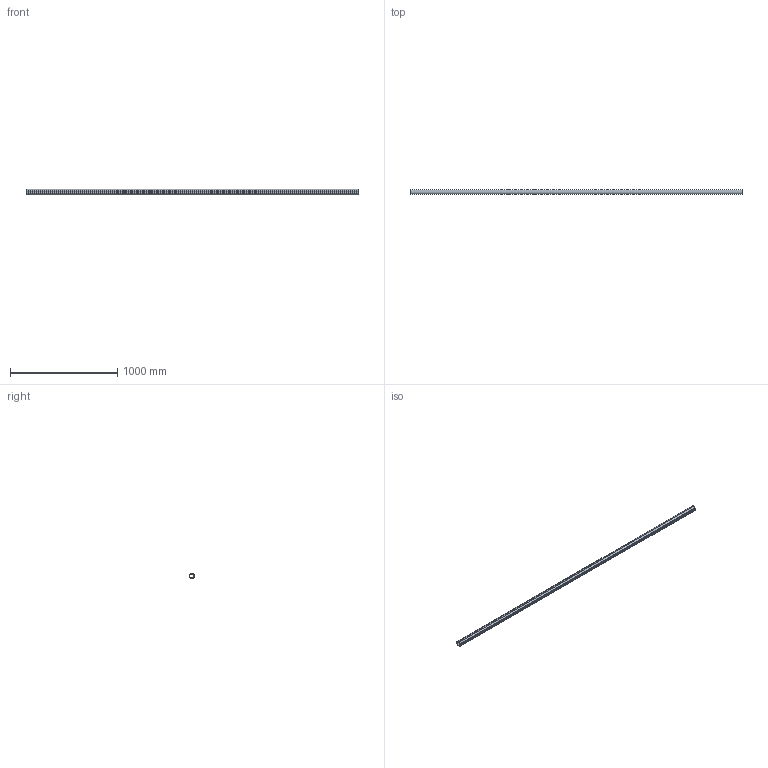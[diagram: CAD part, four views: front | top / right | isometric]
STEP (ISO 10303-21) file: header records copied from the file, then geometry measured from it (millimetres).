
FILE_DESCRIPTION(/* description */ (''),/* implementation_level */ '2;1');
FILE_NAME(/* name */ 'Pos124-HANDREGEL PROFIEL 50X47-Aluminium-3st',/* time_stamp */ '2024-08-06T11:49:44+02:00',/* author */ (''),/* organization */ (''),/* preprocessor_version */ 'ST-DEVELOPER v16.5',/* originating_system */ 'HiCAD 2024 2901.2 Build 361',/* authorisation */ '');
FILE_SCHEMA (('AUTOMOTIVE_DESIGN { 1 0 10303 214 1 1 1 1 }'));
Length unit declared in the file: millimetre
Products named in the file (1): Pos124-HANDREGEL PROFIEL 50X47-Aluminium-3st
Bounding box: 3100 x 46.5 x 50 mm (x, y, z)
Volume: 1706053.1 mm3; surface area: 1153857.6 mm2
Topology: 1 solids, 1 shells, 44 faces, 126 edges, 84 vertices
Faces by surface type: cylinder 30, plane 14
Entity records: 2752 total; most frequent: DIRECTION 274, CARTESIAN_POINT 254, PRESENTATION_STYLE_ASSIGNMENT 253, COLOUR_RGB 253, DRAUGHTING_PRE_DEFINED_CURVE_FONT 252, CURVE_STYLE 252, OVER_RIDING_STYLED_ITEM 252, ORIENTED_EDGE 252
